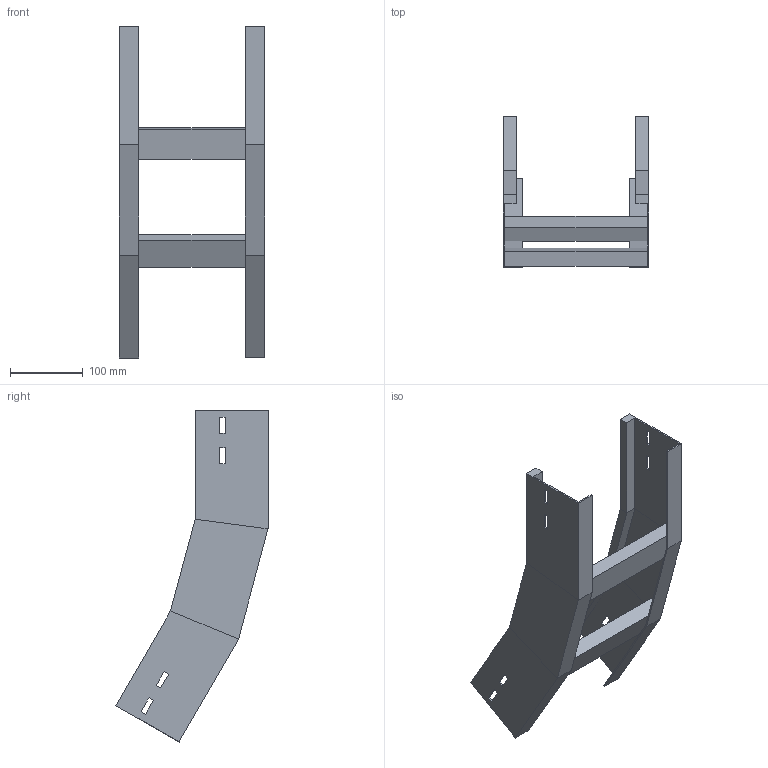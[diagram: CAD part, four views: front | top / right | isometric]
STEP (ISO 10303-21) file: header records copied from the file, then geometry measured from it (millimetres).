
FILE_DESCRIPTION (( 'STEP AP214' ), '1' );
FILE_NAME ('A2X32B5D200XX.step', '2025-03-20T09:57:28', ( '' ), ( '' ), 'SwSTEP 2.0', 'SolidWorks 2023', '' );
FILE_SCHEMA (( 'AUTOMOTIVE_DESIGN' ));
Length unit declared in the file: millimetre
Products named in the file (3): LONGH.SALITA_30°_H100_R500; TRAVERSINO_200; A2X32B5D200XX
Assembly tree (4 placements, depth 2):
  A2X32B5D200XX
    LONGH.SALITA_30°_H100_R500  x2
    TRAVERSINO_200  x2
Bounding box: 200 x 208.63 x 455.43 mm (x, y, z)
Volume: 712081 mm3; surface area: 312987.6 mm2
Topology: 4 solids, 4 shells, 96 faces, 232 edges, 144 vertices
Faces by surface type: plane 96
Entity records: 1472 total; most frequent: CARTESIAN_POINT 243, ORIENTED_EDGE 232, DIRECTION 226, EDGE_CURVE 116, LINE 116, VECTOR 116, VERTEX_POINT 72, EDGE_LOOP 56
